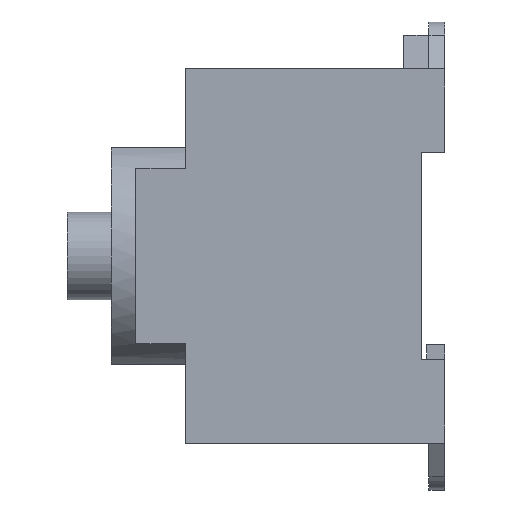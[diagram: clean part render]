
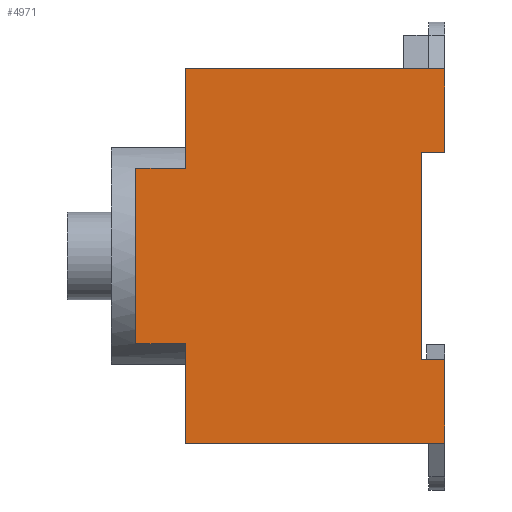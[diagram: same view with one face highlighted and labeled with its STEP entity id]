
A CAD part, left-side view. The second image highlights one B-rep face of the part: STEP entity #4971.
In plain terms, the highlighted planar face has unit normal (-1, 0, 0).
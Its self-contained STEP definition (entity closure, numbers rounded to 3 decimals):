
#85 = LINE ( 'NONE', #4666, #4075 ) ;
#112 = EDGE_CURVE ( 'NONE', #1039, #5852, #3162, .T. ) ;
#255 = LINE ( 'NONE', #5847, #2331 ) ;
#277 = ORIENTED_EDGE ( 'NONE', *, *, #112, .F. ) ;
#442 = EDGE_CURVE ( 'NONE', #2231, #4579, #2496, .T. ) ;
#510 = CARTESIAN_POINT ( 'NONE',  ( -24., 44.3, -32. ) ) ;
#531 = EDGE_CURVE ( 'NONE', #3973, #1811, #815, .T. ) ;
#571 = CARTESIAN_POINT ( 'NONE',  ( -24., 44.3, -32. ) ) ;
#687 = CARTESIAN_POINT ( 'NONE',  ( -24., 52.8, -15. ) ) ;
#721 = ORIENTED_EDGE ( 'NONE', *, *, #842, .T. ) ;
#815 = LINE ( 'NONE', #4057, #3194 ) ;
#842 = EDGE_CURVE ( 'NONE', #2231, #5427, #255, .T. ) ;
#849 = VERTEX_POINT ( 'NONE', #5332 ) ;
#851 = DIRECTION ( 'NONE',  ( 0., 0., 1. ) ) ;
#874 = DIRECTION ( 'NONE',  ( 0., 0., 1. ) ) ;
#894 = LINE ( 'NONE', #6395, #3696 ) ;
#966 = CARTESIAN_POINT ( 'NONE',  ( -24., 4., 17.65 ) ) ;
#1006 = DIRECTION ( 'NONE',  ( 0., 0., 1. ) ) ;
#1039 = VERTEX_POINT ( 'NONE', #571 ) ;
#1040 = FACE_OUTER_BOUND ( 'NONE', #1377, .T. ) ;
#1139 = PLANE ( 'NONE',  #6053 ) ;
#1333 = DIRECTION ( 'NONE',  ( 0., -1., 0. ) ) ;
#1362 = VERTEX_POINT ( 'NONE', #6116 ) ;
#1377 = EDGE_LOOP ( 'NONE', ( #6119, #721, #4639, #3290, #4193, #2293, #4874, #5544, #277, #2844, #2526, #5615 ) ) ;
#1389 = CARTESIAN_POINT ( 'NONE',  ( -24., 0., 17.65 ) ) ;
#1398 = CARTESIAN_POINT ( 'NONE',  ( -24., 4., 17.65 ) ) ;
#1533 = DIRECTION ( 'NONE',  ( 0., -1., 0. ) ) ;
#1811 = VERTEX_POINT ( 'NONE', #4047 ) ;
#1919 = EDGE_CURVE ( 'NONE', #849, #1362, #894, .T. ) ;
#1937 = LINE ( 'NONE', #4381, #4638 ) ;
#1942 = EDGE_CURVE ( 'NONE', #4579, #5290, #1937, .T. ) ;
#2028 = DIRECTION ( 'NONE',  ( 0., 0., -1. ) ) ;
#2031 = VECTOR ( 'NONE', #6252, 1000. ) ;
#2231 = VERTEX_POINT ( 'NONE', #966 ) ;
#2293 = ORIENTED_EDGE ( 'NONE', *, *, #531, .F. ) ;
#2331 = VECTOR ( 'NONE', #1333, 1000. ) ;
#2370 = CARTESIAN_POINT ( 'NONE',  ( -24., 0., -32. ) ) ;
#2463 = CARTESIAN_POINT ( 'NONE',  ( -24., 52.8, -15. ) ) ;
#2496 = LINE ( 'NONE', #1398, #6562 ) ;
#2520 = CARTESIAN_POINT ( 'NONE',  ( -24., 4., -17.65 ) ) ;
#2526 = ORIENTED_EDGE ( 'NONE', *, *, #4289, .T. ) ;
#2566 = DIRECTION ( 'NONE',  ( 0., 0., -1. ) ) ;
#2603 = LINE ( 'NONE', #4734, #4998 ) ;
#2820 = LINE ( 'NONE', #6066, #3574 ) ;
#2844 = ORIENTED_EDGE ( 'NONE', *, *, #3916, .T. ) ;
#2875 = LINE ( 'NONE', #510, #5515 ) ;
#2904 = CARTESIAN_POINT ( 'NONE',  ( -24., 44.3, -32. ) ) ;
#3032 = DIRECTION ( 'NONE',  ( 0., -1., 0. ) ) ;
#3162 = LINE ( 'NONE', #2904, #2031 ) ;
#3194 = VECTOR ( 'NONE', #4025, 1000. ) ;
#3290 = ORIENTED_EDGE ( 'NONE', *, *, #1919, .F. ) ;
#3515 = EDGE_CURVE ( 'NONE', #1811, #849, #5159, .T. ) ;
#3574 = VECTOR ( 'NONE', #4437, 1000. ) ;
#3696 = VECTOR ( 'NONE', #5565, 1000. ) ;
#3731 = VERTEX_POINT ( 'NONE', #2370 ) ;
#3895 = VECTOR ( 'NONE', #4262, 1000. ) ;
#3903 = LINE ( 'NONE', #2463, #3895 ) ;
#3916 = EDGE_CURVE ( 'NONE', #1039, #3731, #2875, .T. ) ;
#3973 = VERTEX_POINT ( 'NONE', #6328 ) ;
#4025 = DIRECTION ( 'NONE',  ( 0., -1., 0. ) ) ;
#4047 = CARTESIAN_POINT ( 'NONE',  ( -24., 44.3, 15. ) ) ;
#4057 = CARTESIAN_POINT ( 'NONE',  ( -24., 52.8, 15. ) ) ;
#4075 = VECTOR ( 'NONE', #874, 1000. ) ;
#4193 = ORIENTED_EDGE ( 'NONE', *, *, #3515, .F. ) ;
#4262 = DIRECTION ( 'NONE',  ( 0., -1., 0. ) ) ;
#4289 = EDGE_CURVE ( 'NONE', #3731, #5290, #85, .T. ) ;
#4381 = CARTESIAN_POINT ( 'NONE',  ( -24., 4., -17.65 ) ) ;
#4437 = DIRECTION ( 'NONE',  ( 0., 0., 1. ) ) ;
#4579 = VERTEX_POINT ( 'NONE', #2520 ) ;
#4638 = VECTOR ( 'NONE', #1533, 1000. ) ;
#4639 = ORIENTED_EDGE ( 'NONE', *, *, #4780, .T. ) ;
#4666 = CARTESIAN_POINT ( 'NONE',  ( -24., 0., -32. ) ) ;
#4734 = CARTESIAN_POINT ( 'NONE',  ( -24., 52.8, -15. ) ) ;
#4780 = EDGE_CURVE ( 'NONE', #5427, #1362, #2820, .T. ) ;
#4814 = DIRECTION ( 'NONE',  ( 1., 0., 0. ) ) ;
#4855 = VERTEX_POINT ( 'NONE', #687 ) ;
#4874 = ORIENTED_EDGE ( 'NONE', *, *, #5902, .F. ) ;
#4971 = ADVANCED_FACE ( 'NONE', ( #1040 ), #1139, .F. ) ;
#4998 = VECTOR ( 'NONE', #1006, 1000. ) ;
#5159 = LINE ( 'NONE', #5963, #5848 ) ;
#5290 = VERTEX_POINT ( 'NONE', #6460 ) ;
#5332 = CARTESIAN_POINT ( 'NONE',  ( -24., 44.3, 32. ) ) ;
#5427 = VERTEX_POINT ( 'NONE', #1389 ) ;
#5503 = CARTESIAN_POINT ( 'NONE',  ( -24., 44.3, -15. ) ) ;
#5515 = VECTOR ( 'NONE', #3032, 1000. ) ;
#5544 = ORIENTED_EDGE ( 'NONE', *, *, #6218, .T. ) ;
#5565 = DIRECTION ( 'NONE',  ( 0., -1., 0. ) ) ;
#5615 = ORIENTED_EDGE ( 'NONE', *, *, #1942, .F. ) ;
#5765 = CARTESIAN_POINT ( 'NONE',  ( -24., 44.3, -32. ) ) ;
#5847 = CARTESIAN_POINT ( 'NONE',  ( -24., 4., 17.65 ) ) ;
#5848 = VECTOR ( 'NONE', #851, 1000. ) ;
#5852 = VERTEX_POINT ( 'NONE', #5503 ) ;
#5902 = EDGE_CURVE ( 'NONE', #4855, #3973, #2603, .T. ) ;
#5963 = CARTESIAN_POINT ( 'NONE',  ( -24., 44.3, -32. ) ) ;
#6053 = AXIS2_PLACEMENT_3D ( 'NONE', #5765, #4814, #2028 ) ;
#6066 = CARTESIAN_POINT ( 'NONE',  ( -24., 0., -32. ) ) ;
#6116 = CARTESIAN_POINT ( 'NONE',  ( -24., 0., 32. ) ) ;
#6119 = ORIENTED_EDGE ( 'NONE', *, *, #442, .F. ) ;
#6218 = EDGE_CURVE ( 'NONE', #4855, #5852, #3903, .T. ) ;
#6252 = DIRECTION ( 'NONE',  ( 0., 0., 1. ) ) ;
#6328 = CARTESIAN_POINT ( 'NONE',  ( -24., 52.8, 15. ) ) ;
#6395 = CARTESIAN_POINT ( 'NONE',  ( -24., 44.3, 32. ) ) ;
#6460 = CARTESIAN_POINT ( 'NONE',  ( -24., 0., -17.65 ) ) ;
#6562 = VECTOR ( 'NONE', #2566, 1000. ) ;
